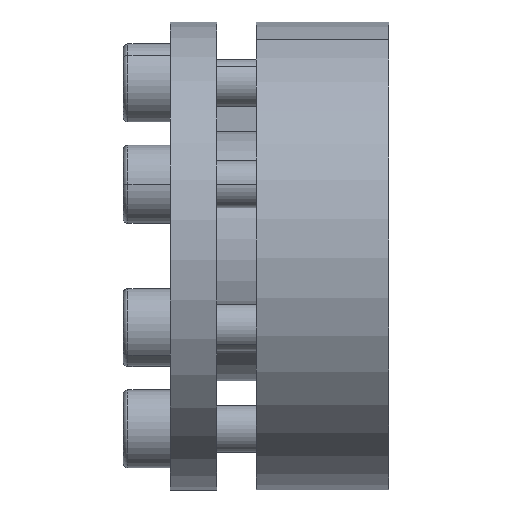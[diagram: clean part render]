
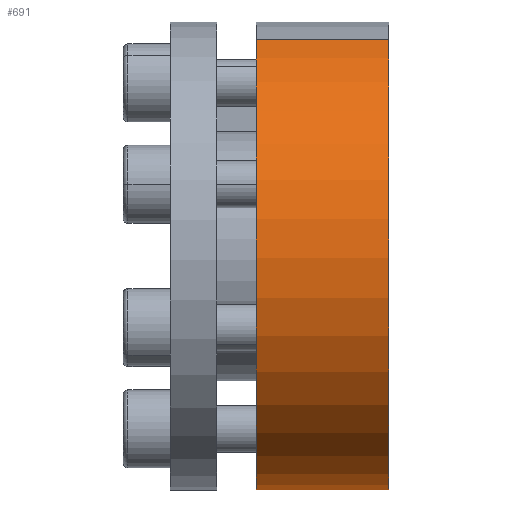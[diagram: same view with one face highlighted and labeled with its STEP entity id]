
A CAD part, front view. The second image highlights one B-rep face of the part: STEP entity #691.
In plain terms, the highlighted cylindrical face has radius 30 mm (diameter 60 mm), a partial arc.
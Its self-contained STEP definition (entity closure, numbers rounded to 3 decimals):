
#82 = ORIENTED_EDGE ( 'NONE', *, *, #4141, .T. ) ;
#509 = EDGE_LOOP ( 'NONE', ( #82, #1760, #541, #6273 ) ) ;
#541 = ORIENTED_EDGE ( 'NONE', *, *, #6115, .F. ) ;
#543 = VECTOR ( 'NONE', #3342, 1000. ) ;
#667 = CIRCLE ( 'NONE', #2831, 30. ) ;
#691 = ADVANCED_FACE ( 'NONE', ( #3139 ), #2977, .T. ) ;
#721 = CARTESIAN_POINT ( 'NONE',  ( -13.542, -0.778, -29.976 ) ) ;
#753 = DIRECTION ( 'NONE',  ( -1., 0., 0. ) ) ;
#837 = AXIS2_PLACEMENT_3D ( 'NONE', #3884, #753, #4415 ) ;
#847 = CARTESIAN_POINT ( 'NONE',  ( 3.458, -11.258, 27.724 ) ) ;
#1307 = LINE ( 'NONE', #4856, #4265 ) ;
#1425 = VERTEX_POINT ( 'NONE', #4650 ) ;
#1441 = VERTEX_POINT ( 'NONE', #847 ) ;
#1699 = CIRCLE ( 'NONE', #837, 30. ) ;
#1703 = DIRECTION ( 'NONE',  ( -1., 0., 0. ) ) ;
#1760 = ORIENTED_EDGE ( 'NONE', *, *, #3525, .T. ) ;
#2071 = LINE ( 'NONE', #721, #543 ) ;
#2318 = EDGE_CURVE ( 'NONE', #2979, #5809, #2071, .T. ) ;
#2424 = DIRECTION ( 'NONE',  ( -1., 0., 0. ) ) ;
#2636 = CARTESIAN_POINT ( 'NONE',  ( -13.542, -0.778, -29.976 ) ) ;
#2831 = AXIS2_PLACEMENT_3D ( 'NONE', #5587, #2424, #6110 ) ;
#2977 = CYLINDRICAL_SURFACE ( 'NONE', #4151, 30. ) ;
#2979 = VERTEX_POINT ( 'NONE', #2636 ) ;
#3139 = FACE_OUTER_BOUND ( 'NONE', #509, .T. ) ;
#3212 = DIRECTION ( 'NONE',  ( 0., 0.383, -0.924 ) ) ;
#3342 = DIRECTION ( 'NONE',  ( 1., 0., 0. ) ) ;
#3525 = EDGE_CURVE ( 'NONE', #1441, #1425, #1307, .T. ) ;
#3805 = DIRECTION ( 'NONE',  ( -1., 0., 0. ) ) ;
#3884 = CARTESIAN_POINT ( 'NONE',  ( 3.458, 0.222, 0.007 ) ) ;
#4141 = EDGE_CURVE ( 'NONE', #5809, #1441, #1699, .T. ) ;
#4151 = AXIS2_PLACEMENT_3D ( 'NONE', #4626, #3805, #3212 ) ;
#4265 = VECTOR ( 'NONE', #1703, 1000. ) ;
#4415 = DIRECTION ( 'NONE',  ( 0., 0.383, -0.924 ) ) ;
#4626 = CARTESIAN_POINT ( 'NONE',  ( -13.542, 0.222, 0.007 ) ) ;
#4650 = CARTESIAN_POINT ( 'NONE',  ( -13.542, -11.258, 27.724 ) ) ;
#4856 = CARTESIAN_POINT ( 'NONE',  ( -13.542, -11.258, 27.724 ) ) ;
#5587 = CARTESIAN_POINT ( 'NONE',  ( -13.542, 0.222, 0.007 ) ) ;
#5809 = VERTEX_POINT ( 'NONE', #5814 ) ;
#5814 = CARTESIAN_POINT ( 'NONE',  ( 3.458, -0.778, -29.976 ) ) ;
#6110 = DIRECTION ( 'NONE',  ( 0., 0.383, -0.924 ) ) ;
#6115 = EDGE_CURVE ( 'NONE', #2979, #1425, #667, .T. ) ;
#6273 = ORIENTED_EDGE ( 'NONE', *, *, #2318, .T. ) ;
